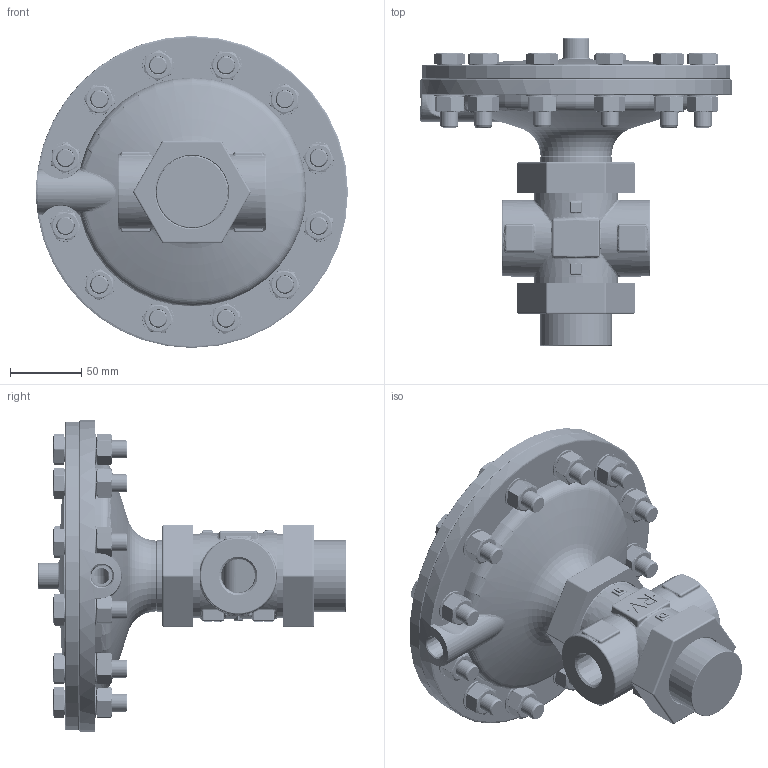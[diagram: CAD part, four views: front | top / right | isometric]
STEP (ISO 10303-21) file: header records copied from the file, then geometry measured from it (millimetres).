
FILE_DESCRIPTION (( 'STEP AP203' ), '1' );
FILE_NAME ('.50-1.25 2W NC NPT RV-STEP.STEP', '2018-11-07T19:40:02', ( '' ), ( '' ), 'SwSTEP 2.0', 'SolidWorks 2012', '' );
FILE_SCHEMA (( 'CONFIG_CONTROL_DESIGN' ));
Length unit declared in the file: inch
Products named in the file (10): .50-1.25 2W NC NPT RV-STEP; H174-08; RV513; RV512; RV510-STR; RV502-SS; C663-026D-SS; RV508-SS; RV503-SS; RV500-SS
Assembly tree (43 placements, depth 2):
  .50-1.25 2W NC NPT RV-STEP
    RV500-SS
    RV503-SS
    RV508-SS
    C663-026D-SS  x2
    RV502-SS
    RV510-STR
    RV512  x12
    RV513  x12
    H174-08  x12
Bounding box: 219.07 x 215.9 x 219.07 mm (x, y, z)
Volume: 1296482.5 mm3; surface area: 355263.1 mm2
Topology: 43 solids, 43 shells, 10704 faces, 24939 edges, 13609 vertices
Faces by surface type: bspline 3973, cylinder 2687, sphere 1569, plane 1320, torus 889, cone 266
Entity records: 82521 total; most frequent: CARTESIAN_POINT 37745, ORIENTED_EDGE 9416, DIRECTION 8336, EDGE_CURVE 4708, AXIS2_PLACEMENT_3D 3395, VERTEX_POINT 2762, EDGE_LOOP 2210, FACE_OUTER_BOUND 2053
